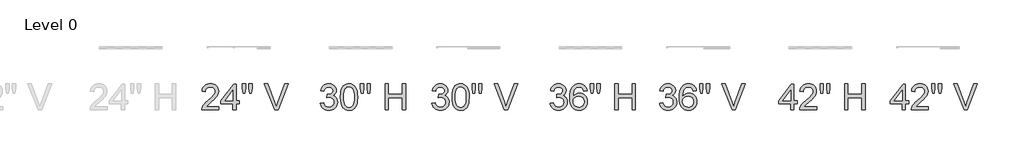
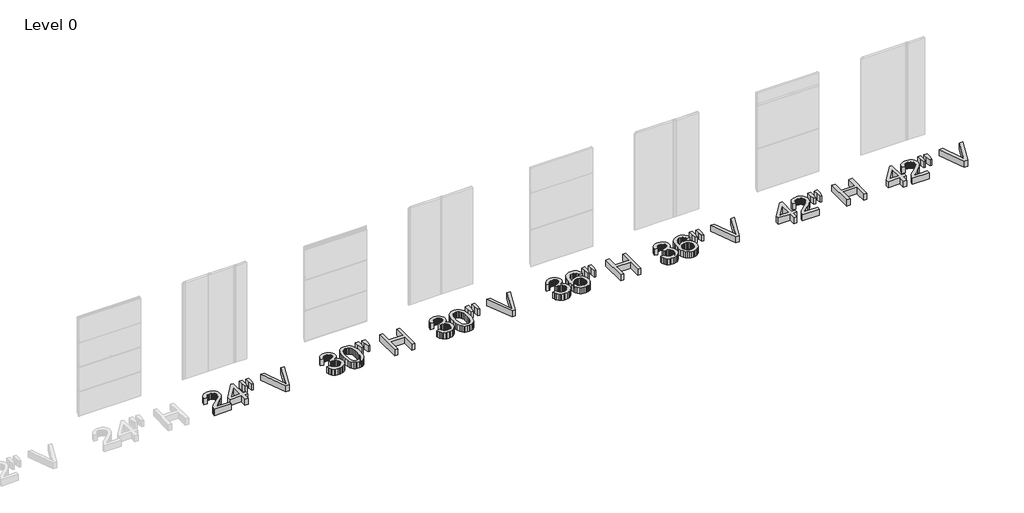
# One storey, part 3 of 5: 7 proxies.
"""IFC4 building model written with IfcOpenShell, lengths in millimetres."""

from ifc_helpers import new_model, si_unit, origin, origin_with_axes, place, context, project, spatial, polyline, outline, extrude, element, save

model = new_model("IFC4")

# Units and contexts
model_context = context("Model", 3, world=origin())
ifc_project = project(units=[si_unit("LENGTHUNIT", "METRE", prefix="MILLI")], contexts=[model_context])

# Site, building, storey
site = spatial("IfcSite", under=ifc_project)
building = spatial("IfcBuilding", under=site)
storey = spatial("IfcBuildingStorey", under=building, Name="Level 0", Elevation=0.0)

# Proxies
placement = place(None, origin())
element("IfcBuildingElementProxy", 1, Name="24\" Arial", ObjectType="24\" Arial", at=placement, inside=storey, context=model_context, shape_type="SweptSolid", body=[
    extrude(outline(polyline([(-22407.9539818, 9485.5823155), (-22407.9539818, 9409.440542), (-22807.6982928, 9409.440542), (-22806.0252557, 9436.2463129), (-22799.5190007, 9461.9367257), (-22780.7438075, 9502.9633112), (-22753.2688218, 9542.7630029), (-22713.5248981, 9584.4216246), (-22657.9428905, 9631.0250001), (-22575.7781838, 9704.0065926), (-22526.4793597, 9757.8783845), (-22512.100536, 9779.8881159), (-22501.8299477, 9801.6004185), (-22495.6675947, 9823.0152923), (-22493.613477, 9844.1327373), (-22495.5514115, 9864.0000519), (-22501.3652152, 9882.259392), (-22511.0548879, 9898.9107576), (-22524.6204297, 9913.9541488), (-22541.3089739, 9926.4136272), (-22560.3676539, 9935.3132547), (-22581.7964697, 9940.6530311), (-22605.5954213, 9942.4329566), (-22630.6677399, 9940.6948571), (-22653.0910832, 9935.4805584), (-22672.8654513, 9926.7900605), (-22689.990844, 9914.6233636), (-22703.84452, 9899.3894321), (-22713.8037376, 9881.4972307), (-22719.8684968, 9860.9467593), (-22722.0387975, 9837.7380181), (-22798.1805711, 9847.2557397), (-22791.6324901, 9886.562815), (-22779.721396, 9920.906547), (-22762.4472888, 9950.286936), (-22739.8101685, 9974.7039817), (-22712.3305355, 9993.8974342), (-22680.5288903, 10007.6070431), (-22644.4052327, 10015.8328084), (-22603.9595628, 10018.5747302), (-22563.1514016, 10015.5260849), (-22526.8325564, 10006.3801492), (-22495.0030272, 9991.1369231), (-22467.662814, 9969.7964065), (-22445.7042031, 9943.93869), (-22430.0194811, 9915.143864), (-22420.6086479, 9883.4119286), (-22417.4717035, 9848.7428838), (-22420.8549561, 9812.3264447), (-22431.004714, 9776.5420419), (-22449.0177459, 9740.1441921), (-22475.9908204, 9701.8874124), (-22518.9878717, 9656.2135018), (-22585.0728339, 9597.5642598), (-22672.6656163, 9524.3224171), (-22707.018643, 9485.5823155), (-22407.9539818, 9485.5823155)])), origin_with_axes(), (0.0, 0.0, 1.0), 152.4),
    extrude(outline(polyline([(-22084.3514443, 9409.440542), (-22084.3514443, 9552.2063674), (-22360.3653733, 9552.2063674), (-22360.3653733, 9628.3481409), (-22065.316001, 10009.0570085), (-22008.2096708, 10009.0570085), (-22008.2096708, 9628.3481409), (-21932.0678973, 9628.3481409), (-21932.0678973, 9552.2063674), (-22008.2096708, 9552.2063674), (-22008.2096708, 9409.440542), (-22084.3514443, 9409.440542)]), holes=[polyline([(-22084.3514443, 9628.3481409), (-22084.3514443, 9863.6143239), (-22266.6753005, 9628.3481409), (-22084.3514443, 9628.3481409)])]), origin_with_axes(), (0.0, 0.0, 1.0), 152.4),
    extrude(outline(polyline([(-21846.8545453, 9799.6671313), (-21865.4438455, 9917.3002228), (-21865.4438455, 10018.5747302), (-21789.302072, 10018.5747302), (-21789.302072, 9917.3002228), (-21805.9580849, 9799.6671313), (-21846.8545453, 9799.6671313)])), origin_with_axes(), (0.0, 0.0, 1.0), 152.4),
    extrude(outline(polyline([(-21695.0171415, 9799.6671313), (-21713.1602984, 9917.3002228), (-21713.1602984, 10018.5747302), (-21637.0185249, 10018.5747302), (-21637.0185249, 9917.3002228), (-21654.8642531, 9799.6671313), (-21695.0171415, 9799.6671313)])), origin_with_axes(), (0.0, 0.0, 1.0), 152.4),
    extrude(outline(polyline([(-21114.4361184, 9409.440542), (-21356.8405927, 10018.5747302), (-21275.3451007, 10018.5747302), (-21113.0976888, 9579.7185316), (-21080.2318061, 9480.8234547), (-21047.8120666, 9579.7185316), (-20885.1185114, 10018.5747302), (-20803.6230195, 10018.5747302), (-21035.7662001, 9409.440542), (-21114.4361184, 9409.440542)])), origin_with_axes(), (0.0, 0.0, 1.0), 152.4),
])
element("IfcBuildingElementProxy", 2, Name="24\" Arial", ObjectType="24\" Arial", at=placement, inside=storey, context=model_context, shape_type="SweptSolid", body=[
    extrude(outline(polyline([(-20054.9805711, 9571.2418107), (-19978.8387975, 9580.7595324), (-19961.7924093, 9532.9106738), (-19950.2995745, 9514.8139901), (-19936.8269792, 9500.6024701), (-19921.0678999, 9489.8671492), (-19902.7156133, 9482.1990629), (-19881.7701194, 9477.5982111), (-19858.231418, 9476.0645938), (-19830.6448966, 9478.1744794), (-19806.0326631, 9484.5041361), (-19784.3947177, 9495.053564), (-19765.7310603, 9509.822763), (-19750.7016111, 9527.7056697), (-19739.9662903, 9547.5962209), (-19733.5250978, 9569.4944165), (-19731.3780336, 9593.4002566), (-19733.5065085, 9616.1675019), (-19739.8919331, 9636.8806297), (-19750.5343074, 9655.5396397), (-19765.4336315, 9672.1445321), (-19783.6139671, 9685.7751364), (-19804.0993759, 9695.5112824), (-19826.8898579, 9701.35297), (-19851.9854132, 9703.3001992), (-19876.0399676, 9701.2181976), (-19905.3738833, 9694.9721927), (-19896.8971624, 9771.1139662), (-19884.7025815, 9770.2216798), (-19839.0844388, 9775.6869341), (-19798.2995142, 9792.0826968), (-19781.5133762, 9804.48176), (-19769.5232776, 9819.8179327), (-19762.3292184, 9838.0912148), (-19759.9311987, 9859.3016063), (-19761.6692983, 9876.5199455), (-19766.883597, 9892.1860783), (-19775.5740948, 9906.3000044), (-19787.7407917, 9918.861724), (-19802.6494105, 9929.1741383), (-19819.5656736, 9936.5401485), (-19838.4895812, 9940.9597546), (-19859.4211332, 9942.4329566), (-19880.2969173, 9940.9458126), (-19899.35095, 9936.4843806), (-19916.5832313, 9929.0486605), (-19931.9937611, 9918.6386524), (-19945.2014589, 9905.2543563), (-19955.8252439, 9888.8957721), (-19963.8651163, 9869.5629), (-19969.3210759, 9847.2557397), (-20045.4628494, 9856.7734614), (-20036.4377441, 9893.1248379), (-20023.0441534, 9925.1449075), (-20005.282077, 9952.8336701), (-19983.1515152, 9976.1911258), (-19957.3495665, 9994.7339527), (-19928.5733299, 10007.9788291), (-19896.8228052, 10015.9257549), (-19862.0979924, 10018.5747302), (-19814.2305445, 10013.3511368), (-19770.2668496, 9997.6803568), (-19733.199785, 9972.9565875), (-19706.0222282, 9940.5740266), (-19689.3476259, 9903.2653012), (-19683.7894252, 9863.7630383), (-19689.0687864, 9826.956224), (-19704.9068702, 9793.5698408), (-19731.0806048, 9765.1282116), (-19767.3669188, 9743.1556588), (-19741.992524, 9735.2180276), (-19719.7039531, 9723.8971438), (-19700.501206, 9709.1930073), (-19684.3842828, 9691.1056183), (-19671.6320229, 9670.0811198), (-19662.5232658, 9646.5656551), (-19657.0580115, 9620.5592241), (-19655.2362601, 9592.0618269), (-19658.8797629, 9553.4332612), (-19669.8102714, 9517.8533406), (-19688.0277856, 9485.3220653), (-19713.5323054, 9455.8394353), (-19744.6043207, 9431.3759162), (-19779.5243211, 9413.9019741), (-19818.2923066, 9403.4176088), (-19860.9082772, 9399.9228203), (-19899.4253072, 9402.906403), (-19934.5219059, 9411.857151), (-19966.1980734, 9426.7750644), (-19994.4538097, 9447.6601432), (-20018.1458728, 9473.2854935), (-20036.1310207, 9502.4242215), (-20048.4092535, 9535.0763273), (-20054.9805711, 9571.2418107)])), origin_with_axes(), (0.0, 0.0, 1.0), 152.4),
    extrude(outline(polyline([(-19588.6122083, 9709.1000608), (-19583.0168289, 9806.6009403), (-19576.0226047, 9847.9481912), (-19566.2306909, 9884.3599829), (-19553.6829132, 9916.1337442), (-19538.4210978, 9943.5669039), (-19520.4452445, 9966.6594621), (-19499.7553534, 9985.4114186), (-19476.2817146, 9999.9203674), (-19449.9546183, 10010.2839023), (-19420.7740643, 10016.5020232), (-19388.7400528, 10018.5747302), (-19341.8206591, 10013.6671549), (-19299.8088408, 9998.9444292), (-19264.6750634, 9974.9828212), (-19238.389793, 9942.3585994), (-19218.5364204, 9901.3506033), (-19202.6983366, 9852.2376722), (-19192.3255071, 9789.8705701), (-19188.8678973, 9709.1000608), (-19194.4075088, 9612.1568604), (-19201.3320231, 9570.9490293), (-19211.0263431, 9534.5837108), (-19223.4765269, 9502.7960075), (-19238.6686325, 9475.3210218), (-19256.6026598, 9452.1587538), (-19277.2786089, 9433.3092034), (-19300.7801317, 9418.7026608), (-19327.1908799, 9408.2694161), (-19356.5108536, 9402.0094693), (-19388.7400528, 9399.9228203), (-19430.677514, 9403.5477339), (-19467.8561143, 9414.4224745), (-19500.2758538, 9432.5470421), (-19527.9367325, 9457.9214369), (-19554.4822532, 9503.7905351), (-19573.4433393, 9560.9433384), (-19584.819991, 9629.379847), (-19588.6122083, 9709.1000608)]), holes=[polyline([(-19512.4704348, 9709.2487752), (-19510.2397187, 9643.0569246), (-19503.5475707, 9589.4779142), (-19492.3939906, 9548.511744), (-19476.7789784, 9520.1584139), (-19457.8922494, 9500.8673676), (-19436.9235188, 9487.0880488), (-19413.8727866, 9478.8204576), (-19388.7400528, 9476.0645938), (-19363.607319, 9478.8297522), (-19340.5565867, 9487.1252274), (-19319.5878561, 9500.9510195), (-19300.7011272, 9520.3071283), (-19285.086115, 9548.7069316), (-19273.9325349, 9589.6638072), (-19267.2403868, 9643.1777551), (-19265.0096708, 9709.2487752), (-19267.1660296, 9773.6885843), (-19273.6351061, 9826.3241877), (-19284.4169002, 9867.1555856), (-19299.5114119, 9896.1827778), (-19318.0821228, 9916.417231), (-19339.2925143, 9930.8704119), (-19363.1425864, 9939.5423205), (-19389.6323392, 9942.4329566), (-19414.6349479, 9939.8862225), (-19437.2953048, 9932.2460201), (-19457.6134099, 9919.5123495), (-19475.5892632, 9901.6852107), (-19491.7247758, 9870.0834004), (-19503.2501419, 9827.4767244), (-19510.1653615, 9773.8651827), (-19512.4704348, 9709.2487752)])]), origin_with_axes(), (0.0, 0.0, 1.0), 152.4),
    extrude(outline(polyline([(-19103.6545453, 9799.6671313), (-19122.2438455, 9917.3002228), (-19122.2438455, 10018.5747302), (-19046.102072, 10018.5747302), (-19046.102072, 9917.3002228), (-19062.7580849, 9799.6671313), (-19103.6545453, 9799.6671313)])), origin_with_axes(), (0.0, 0.0, 1.0), 152.4),
    extrude(outline(polyline([(-18951.8171415, 9799.6671313), (-18969.9602984, 9917.3002228), (-18969.9602984, 10018.5747302), (-18893.8185249, 10018.5747302), (-18893.8185249, 9917.3002228), (-18911.6642531, 9799.6671313), (-18951.8171415, 9799.6671313)])), origin_with_axes(), (0.0, 0.0, 1.0), 152.4),
    extrude(outline(polyline([(-18551.1805441, 9409.440542), (-18551.1805441, 10018.5747302), (-18475.0387706, 10018.5747302), (-18475.0387706, 9771.1139662), (-18151.4362331, 9771.1139662), (-18151.4362331, 10018.5747302), (-18075.2944596, 10018.5747302), (-18075.2944596, 9409.440542), (-18151.4362331, 9409.440542), (-18151.4362331, 9694.9721927), (-18475.0387706, 9694.9721927), (-18475.0387706, 9409.440542), (-18551.1805441, 9409.440542)])), origin_with_axes(), (0.0, 0.0, 1.0), 152.4),
])
element("IfcBuildingElementProxy", 3, Name="24\" Arial", ObjectType="24\" Arial", at=placement, inside=storey, context=model_context, shape_type="SweptSolid", body=[
    extrude(outline(polyline([(-17464.1805711, 9571.2418107), (-17388.0387975, 9580.7595324), (-17370.9924093, 9532.9106738), (-17359.4995745, 9514.8139901), (-17346.0269792, 9500.6024701), (-17330.2678999, 9489.8671492), (-17311.9156133, 9482.1990629), (-17290.9701194, 9477.5982111), (-17267.431418, 9476.0645938), (-17239.8448966, 9478.1744794), (-17215.2326631, 9484.5041361), (-17193.5947177, 9495.053564), (-17174.9310603, 9509.822763), (-17159.9016111, 9527.7056697), (-17149.1662903, 9547.5962209), (-17142.7250978, 9569.4944165), (-17140.5780336, 9593.4002566), (-17142.7065085, 9616.1675019), (-17149.0919331, 9636.8806297), (-17159.7343074, 9655.5396397), (-17174.6336315, 9672.1445321), (-17192.8139671, 9685.7751364), (-17213.2993759, 9695.5112824), (-17236.0898579, 9701.35297), (-17261.1854132, 9703.3001992), (-17285.2399676, 9701.2181976), (-17314.5738833, 9694.9721927), (-17306.0971624, 9771.1139662), (-17293.9025815, 9770.2216798), (-17248.2844388, 9775.6869341), (-17207.4995142, 9792.0826968), (-17190.7133762, 9804.48176), (-17178.7232776, 9819.8179327), (-17171.5292184, 9838.0912148), (-17169.1311987, 9859.3016063), (-17170.8692983, 9876.5199455), (-17176.083597, 9892.1860783), (-17184.7740948, 9906.3000044), (-17196.9407917, 9918.861724), (-17211.8494105, 9929.1741383), (-17228.7656736, 9936.5401485), (-17247.6895812, 9940.9597546), (-17268.6211332, 9942.4329566), (-17289.4969173, 9940.9458126), (-17308.55095, 9936.4843806), (-17325.7832313, 9929.0486605), (-17341.1937611, 9918.6386524), (-17354.4014589, 9905.2543563), (-17365.0252439, 9888.8957721), (-17373.0651163, 9869.5629), (-17378.5210759, 9847.2557397), (-17454.6628494, 9856.7734614), (-17445.6377441, 9893.1248379), (-17432.2441534, 9925.1449075), (-17414.482077, 9952.8336701), (-17392.3515152, 9976.1911258), (-17366.5495665, 9994.7339527), (-17337.7733299, 10007.9788291), (-17306.0228052, 10015.9257549), (-17271.2979924, 10018.5747302), (-17223.4305445, 10013.3511368), (-17179.4668496, 9997.6803568), (-17142.399785, 9972.9565875), (-17115.2222282, 9940.5740266), (-17098.5476259, 9903.2653012), (-17092.9894252, 9863.7630383), (-17098.2687864, 9826.956224), (-17114.1068702, 9793.5698408), (-17140.2806048, 9765.1282116), (-17176.5669188, 9743.1556588), (-17151.192524, 9735.2180276), (-17128.9039531, 9723.8971438), (-17109.701206, 9709.1930073), (-17093.5842828, 9691.1056183), (-17080.8320229, 9670.0811198), (-17071.7232658, 9646.5656551), (-17066.2580115, 9620.5592241), (-17064.4362601, 9592.0618269), (-17068.0797629, 9553.4332612), (-17079.0102714, 9517.8533406), (-17097.2277856, 9485.3220653), (-17122.7323054, 9455.8394353), (-17153.8043207, 9431.3759162), (-17188.7243211, 9413.9019741), (-17227.4923066, 9403.4176088), (-17270.1082772, 9399.9228203), (-17308.6253072, 9402.906403), (-17343.7219059, 9411.857151), (-17375.3980734, 9426.7750644), (-17403.6538097, 9447.6601432), (-17427.3458728, 9473.2854935), (-17445.3310207, 9502.4242215), (-17457.6092535, 9535.0763273), (-17464.1805711, 9571.2418107)])), origin_with_axes(), (0.0, 0.0, 1.0), 152.4),
    extrude(outline(polyline([(-16997.8122083, 9709.1000608), (-16992.2168289, 9806.6009403), (-16985.2226047, 9847.9481912), (-16975.4306909, 9884.3599829), (-16962.8829132, 9916.1337442), (-16947.6210978, 9943.5669039), (-16929.6452445, 9966.6594621), (-16908.9553534, 9985.4114186), (-16885.4817146, 9999.9203674), (-16859.1546183, 10010.2839023), (-16829.9740643, 10016.5020232), (-16797.9400528, 10018.5747302), (-16751.0206591, 10013.6671549), (-16709.0088408, 9998.9444292), (-16673.8750634, 9974.9828212), (-16647.589793, 9942.3585994), (-16627.7364204, 9901.3506033), (-16611.8983366, 9852.2376722), (-16601.5255071, 9789.8705701), (-16598.0678973, 9709.1000608), (-16603.6075088, 9612.1568604), (-16610.5320231, 9570.9490293), (-16620.2263431, 9534.5837108), (-16632.6765269, 9502.7960075), (-16647.8686325, 9475.3210218), (-16665.8026598, 9452.1587538), (-16686.4786089, 9433.3092034), (-16709.9801317, 9418.7026608), (-16736.3908799, 9408.2694161), (-16765.7108536, 9402.0094693), (-16797.9400528, 9399.9228203), (-16839.877514, 9403.5477339), (-16877.0561143, 9414.4224745), (-16909.4758538, 9432.5470421), (-16937.1367325, 9457.9214369), (-16963.6822532, 9503.7905351), (-16982.6433393, 9560.9433384), (-16994.019991, 9629.379847), (-16997.8122083, 9709.1000608)]), holes=[polyline([(-16921.6704348, 9709.2487752), (-16919.4397187, 9643.0569246), (-16912.7475707, 9589.4779142), (-16901.5939906, 9548.511744), (-16885.9789784, 9520.1584139), (-16867.0922494, 9500.8673676), (-16846.1235188, 9487.0880488), (-16823.0727866, 9478.8204576), (-16797.9400528, 9476.0645938), (-16772.807319, 9478.8297522), (-16749.7565867, 9487.1252274), (-16728.7878561, 9500.9510195), (-16709.9011272, 9520.3071283), (-16694.286115, 9548.7069316), (-16683.1325349, 9589.6638072), (-16676.4403868, 9643.1777551), (-16674.2096708, 9709.2487752), (-16676.3660296, 9773.6885843), (-16682.8351061, 9826.3241877), (-16693.6169002, 9867.1555856), (-16708.7114119, 9896.1827778), (-16727.2821228, 9916.417231), (-16748.4925143, 9930.8704119), (-16772.3425864, 9939.5423205), (-16798.8323392, 9942.4329566), (-16823.8349479, 9939.8862225), (-16846.4953048, 9932.2460201), (-16866.8134099, 9919.5123495), (-16884.7892632, 9901.6852107), (-16900.9247758, 9870.0834004), (-16912.4501419, 9827.4767244), (-16919.3653615, 9773.8651827), (-16921.6704348, 9709.2487752)])]), origin_with_axes(), (0.0, 0.0, 1.0), 152.4),
    extrude(outline(polyline([(-16512.8545453, 9799.6671313), (-16531.4438455, 9917.3002228), (-16531.4438455, 10018.5747302), (-16455.302072, 10018.5747302), (-16455.302072, 9917.3002228), (-16471.9580849, 9799.6671313), (-16512.8545453, 9799.6671313)])), origin_with_axes(), (0.0, 0.0, 1.0), 152.4),
    extrude(outline(polyline([(-16361.0171415, 9799.6671313), (-16379.1602984, 9917.3002228), (-16379.1602984, 10018.5747302), (-16303.0185249, 10018.5747302), (-16303.0185249, 9917.3002228), (-16320.8642531, 9799.6671313), (-16361.0171415, 9799.6671313)])), origin_with_axes(), (0.0, 0.0, 1.0), 152.4),
    extrude(outline(polyline([(-15780.4361184, 9409.440542), (-16022.8405927, 10018.5747302), (-15941.3451007, 10018.5747302), (-15779.0976888, 9579.7185316), (-15746.2318061, 9480.8234547), (-15713.8120666, 9579.7185316), (-15551.1185114, 10018.5747302), (-15469.6230195, 10018.5747302), (-15701.7662001, 9409.440542), (-15780.4361184, 9409.440542)])), origin_with_axes(), (0.0, 0.0, 1.0), 152.4),
])
element("IfcBuildingElementProxy", 4, Name="24\" Arial", ObjectType="24\" Arial", at=placement, inside=storey, context=model_context, shape_type="SweptSolid", body=[
    extrude(outline(polyline([(-14720.9805711, 9571.2418107), (-14644.8387975, 9580.7595324), (-14627.7924093, 9532.9106738), (-14616.2995745, 9514.8139901), (-14602.8269792, 9500.6024701), (-14587.0678999, 9489.8671492), (-14568.7156133, 9482.1990629), (-14547.7701194, 9477.5982111), (-14524.231418, 9476.0645938), (-14496.6448966, 9478.1744794), (-14472.0326631, 9484.5041361), (-14450.3947177, 9495.053564), (-14431.7310603, 9509.822763), (-14416.7016111, 9527.7056697), (-14405.9662903, 9547.5962209), (-14399.5250978, 9569.4944165), (-14397.3780336, 9593.4002566), (-14399.5065085, 9616.1675019), (-14405.8919331, 9636.8806297), (-14416.5343074, 9655.5396397), (-14431.4336315, 9672.1445321), (-14449.6139671, 9685.7751364), (-14470.0993759, 9695.5112824), (-14492.8898579, 9701.35297), (-14517.9854132, 9703.3001992), (-14542.0399676, 9701.2181976), (-14571.3738833, 9694.9721927), (-14562.8971624, 9771.1139662), (-14550.7025815, 9770.2216798), (-14505.0844388, 9775.6869341), (-14464.2995142, 9792.0826968), (-14447.5133762, 9804.48176), (-14435.5232776, 9819.8179327), (-14428.3292184, 9838.0912148), (-14425.9311987, 9859.3016063), (-14427.6692983, 9876.5199455), (-14432.883597, 9892.1860783), (-14441.5740948, 9906.3000044), (-14453.7407917, 9918.861724), (-14468.6494105, 9929.1741383), (-14485.5656736, 9936.5401485), (-14504.4895812, 9940.9597546), (-14525.4211332, 9942.4329566), (-14546.2969173, 9940.9458126), (-14565.35095, 9936.4843806), (-14582.5832313, 9929.0486605), (-14597.9937611, 9918.6386524), (-14611.2014589, 9905.2543563), (-14621.8252439, 9888.8957721), (-14629.8651163, 9869.5629), (-14635.3210759, 9847.2557397), (-14711.4628494, 9856.7734614), (-14702.4377441, 9893.1248379), (-14689.0441534, 9925.1449075), (-14671.282077, 9952.8336701), (-14649.1515152, 9976.1911258), (-14623.3495665, 9994.7339527), (-14594.5733299, 10007.9788291), (-14562.8228052, 10015.9257549), (-14528.0979924, 10018.5747302), (-14480.2305445, 10013.3511368), (-14436.2668496, 9997.6803568), (-14399.199785, 9972.9565875), (-14372.0222282, 9940.5740266), (-14355.3476259, 9903.2653012), (-14349.7894252, 9863.7630383), (-14355.0687864, 9826.956224), (-14370.9068702, 9793.5698408), (-14397.0806048, 9765.1282116), (-14433.3669188, 9743.1556588), (-14407.992524, 9735.2180276), (-14385.7039531, 9723.8971438), (-14366.501206, 9709.1930073), (-14350.3842828, 9691.1056183), (-14337.6320229, 9670.0811198), (-14328.5232658, 9646.5656551), (-14323.0580115, 9620.5592241), (-14321.2362601, 9592.0618269), (-14324.8797629, 9553.4332612), (-14335.8102714, 9517.8533406), (-14354.0277856, 9485.3220653), (-14379.5323054, 9455.8394353), (-14410.6043207, 9431.3759162), (-14445.5243211, 9413.9019741), (-14484.2923066, 9403.4176088), (-14526.9082772, 9399.9228203), (-14565.4253072, 9402.906403), (-14600.5219059, 9411.857151), (-14632.1980734, 9426.7750644), (-14660.4538097, 9447.6601432), (-14684.1458728, 9473.2854935), (-14702.1310207, 9502.4242215), (-14714.4092535, 9535.0763273), (-14720.9805711, 9571.2418107)])), origin_with_axes(), (0.0, 0.0, 1.0), 152.4),
    extrude(outline(polyline([(-13864.385619, 9856.7734614), (-13940.5273925, 9847.2557397), (-13952.7963306, 9884.9920191), (-13969.3779864, 9910.7567891), (-13985.7458652, 9924.6151124), (-14003.9169061, 9934.5139148), (-14023.8911091, 9940.4531962), (-14045.6684743, 9942.4329566), (-14081.0625018, 9937.8228102), (-14114.3745278, 9923.9923709), (-14142.9834607, 9894.8629375), (-14166.350211, 9854.765817), (-14175.4822048, 9829.1915873), (-14182.1325269, 9798.0498622), (-14187.9881564, 9719.0639257), (-14157.4459363, 9754.6996142), (-14120.8436042, 9779.8137587), (-14080.2259833, 9794.7037881), (-14037.6378966, 9799.6671313), (-14001.0541539, 9796.274584), (-13967.2959848, 9786.0969422), (-13936.3633893, 9769.1342058), (-13908.2563674, 9745.3863748), (-13884.8989117, 9716.2662361), (-13868.2150148, 9683.1865764), (-13858.2046767, 9646.1473958), (-13854.8678973, 9605.1486943), (-13856.4386932, 9577.3902218), (-13861.1510808, 9550.6262768), (-13869.0050601, 9524.8568595), (-13880.0006311, 9500.0819697), (-13893.7474186, 9477.2264251), (-13909.8550472, 9457.2150435), (-13928.3235169, 9440.0478248), (-13949.1528278, 9425.724769), (-13971.8968366, 9414.4364164), (-13996.1094, 9406.3733075), (-14021.7905182, 9401.5354421), (-14048.9401911, 9399.9228203), (-14094.3306148, 9404.1983594), (-14135.324669, 9417.0249765), (-14171.9223538, 9438.4026717), (-14204.123669, 9468.331445), (-14230.3764082, 9508.0753687), (-14249.1283647, 9558.8985154), (-14260.3795387, 9620.800885), (-14264.12993, 9693.7824775), (-14259.9659267, 9775.6032822), (-14247.473917, 9845.4339883), (-14226.6539008, 9903.2745958), (-14213.1208903, 9927.6986126), (-14197.5058781, 9949.1251047), (-14165.9133625, 9979.5093158), (-14129.2831465, 10001.2123238), (-14087.6152301, 10014.2341286), (-14040.9096135, 10018.5747302), (-14005.8408987, 10015.8885763), (-13974.0996686, 10007.8301147), (-13945.6859233, 9994.3993453), (-13920.5996627, 9975.5962682), (-13899.5193963, 9952.0529195), (-13883.1236336, 9924.4013355), (-13871.4123745, 9892.6415161), (-13864.385619, 9856.7734614)]), holes=[polyline([(-14187.9881564, 9606.3384095), (-14183.5824923, 9572.5988297), (-14170.3654999, 9540.3835725), (-14149.8429125, 9512.6855152), (-14123.5204634, 9492.4975352), (-14091.7513494, 9480.1728292), (-14054.8887672, 9476.0645938), (-14028.4222511, 9478.1930687), (-14004.6418888, 9484.5784933), (-13983.5476804, 9495.2208677), (-13965.1396259, 9510.1201918), (-13950.2077706, 9528.6723133), (-13939.5421596, 9550.2730801), (-13933.142793, 9574.9224922), (-13931.0096708, 9602.6205494), (-13933.1149091, 9629.23578), (-13939.4306238, 9652.8674278), (-13949.956815, 9673.515493), (-13964.6934827, 9691.1799755), (-13983.1573051, 9705.3310802), (-14004.8649604, 9715.4390122), (-14029.8164486, 9721.5037714), (-14058.0117696, 9723.5253578), (-14084.125089, 9721.5037714), (-14108.1842908, 9715.4390122), (-14130.1893749, 9705.3310802), (-14150.1403413, 9691.1799755), (-14166.6987604, 9673.7478592), (-14178.5262027, 9653.7968928), (-14185.622668, 9631.3270762), (-14187.9881564, 9606.3384095)])]), origin_with_axes(), (0.0, 0.0, 1.0), 152.4),
    extrude(outline(polyline([(-13769.6545453, 9799.6671313), (-13788.2438455, 9917.3002228), (-13788.2438455, 10018.5747302), (-13712.102072, 10018.5747302), (-13712.102072, 9917.3002228), (-13728.7580849, 9799.6671313), (-13769.6545453, 9799.6671313)])), origin_with_axes(), (0.0, 0.0, 1.0), 152.4),
    extrude(outline(polyline([(-13617.8171415, 9799.6671313), (-13635.9602984, 9917.3002228), (-13635.9602984, 10018.5747302), (-13559.8185249, 10018.5747302), (-13559.8185249, 9917.3002228), (-13577.6642531, 9799.6671313), (-13617.8171415, 9799.6671313)])), origin_with_axes(), (0.0, 0.0, 1.0), 152.4),
    extrude(outline(polyline([(-13217.1805441, 9409.440542), (-13217.1805441, 10018.5747302), (-13141.0387706, 10018.5747302), (-13141.0387706, 9771.1139662), (-12817.4362331, 9771.1139662), (-12817.4362331, 10018.5747302), (-12741.2944596, 10018.5747302), (-12741.2944596, 9409.440542), (-12817.4362331, 9409.440542), (-12817.4362331, 9694.9721927), (-13141.0387706, 9694.9721927), (-13141.0387706, 9409.440542), (-13217.1805441, 9409.440542)])), origin_with_axes(), (0.0, 0.0, 1.0), 152.4),
])
element("IfcBuildingElementProxy", 5, Name="24\" Arial", ObjectType="24\" Arial", at=placement, inside=storey, context=model_context, shape_type="SweptSolid", body=[
    extrude(outline(polyline([(-12180.9805711, 9571.2418107), (-12104.8387975, 9580.7595324), (-12087.7924093, 9532.9106738), (-12076.2995745, 9514.8139901), (-12062.8269792, 9500.6024701), (-12047.0678999, 9489.8671492), (-12028.7156133, 9482.1990629), (-12007.7701194, 9477.5982111), (-11984.231418, 9476.0645938), (-11956.6448966, 9478.1744794), (-11932.0326631, 9484.5041361), (-11910.3947177, 9495.053564), (-11891.7310603, 9509.822763), (-11876.7016111, 9527.7056697), (-11865.9662903, 9547.5962209), (-11859.5250978, 9569.4944165), (-11857.3780336, 9593.4002566), (-11859.5065085, 9616.1675019), (-11865.8919331, 9636.8806297), (-11876.5343074, 9655.5396397), (-11891.4336315, 9672.1445321), (-11909.6139671, 9685.7751364), (-11930.0993759, 9695.5112824), (-11952.8898579, 9701.35297), (-11977.9854132, 9703.3001992), (-12002.0399676, 9701.2181976), (-12031.3738833, 9694.9721927), (-12022.8971624, 9771.1139662), (-12010.7025815, 9770.2216798), (-11965.0844388, 9775.6869341), (-11924.2995142, 9792.0826968), (-11907.5133762, 9804.48176), (-11895.5232776, 9819.8179327), (-11888.3292184, 9838.0912148), (-11885.9311987, 9859.3016063), (-11887.6692983, 9876.5199455), (-11892.883597, 9892.1860783), (-11901.5740948, 9906.3000044), (-11913.7407917, 9918.861724), (-11928.6494105, 9929.1741383), (-11945.5656736, 9936.5401485), (-11964.4895812, 9940.9597546), (-11985.4211332, 9942.4329566), (-12006.2969173, 9940.9458126), (-12025.35095, 9936.4843806), (-12042.5832313, 9929.0486605), (-12057.9937611, 9918.6386524), (-12071.2014589, 9905.2543563), (-12081.8252439, 9888.8957721), (-12089.8651163, 9869.5629), (-12095.3210759, 9847.2557397), (-12171.4628494, 9856.7734614), (-12162.4377441, 9893.1248379), (-12149.0441534, 9925.1449075), (-12131.282077, 9952.8336701), (-12109.1515152, 9976.1911258), (-12083.3495665, 9994.7339527), (-12054.5733299, 10007.9788291), (-12022.8228052, 10015.9257549), (-11988.0979924, 10018.5747302), (-11940.2305445, 10013.3511368), (-11896.2668496, 9997.6803568), (-11859.199785, 9972.9565875), (-11832.0222282, 9940.5740266), (-11815.3476259, 9903.2653012), (-11809.7894252, 9863.7630383), (-11815.0687864, 9826.956224), (-11830.9068702, 9793.5698408), (-11857.0806048, 9765.1282116), (-11893.3669188, 9743.1556588), (-11867.992524, 9735.2180276), (-11845.7039531, 9723.8971438), (-11826.501206, 9709.1930073), (-11810.3842828, 9691.1056183), (-11797.6320229, 9670.0811198), (-11788.5232658, 9646.5656551), (-11783.0580115, 9620.5592241), (-11781.2362601, 9592.0618269), (-11784.8797629, 9553.4332612), (-11795.8102714, 9517.8533406), (-11814.0277856, 9485.3220653), (-11839.5323054, 9455.8394353), (-11870.6043207, 9431.3759162), (-11905.5243211, 9413.9019741), (-11944.2923066, 9403.4176088), (-11986.9082772, 9399.9228203), (-12025.4253072, 9402.906403), (-12060.5219059, 9411.857151), (-12092.1980734, 9426.7750644), (-12120.4538097, 9447.6601432), (-12144.1458728, 9473.2854935), (-12162.1310207, 9502.4242215), (-12174.4092535, 9535.0763273), (-12180.9805711, 9571.2418107)])), origin_with_axes(), (0.0, 0.0, 1.0), 152.4),
    extrude(outline(polyline([(-11324.385619, 9856.7734614), (-11400.5273925, 9847.2557397), (-11412.7963306, 9884.9920191), (-11429.3779864, 9910.7567891), (-11445.7458652, 9924.6151124), (-11463.9169061, 9934.5139148), (-11483.8911091, 9940.4531962), (-11505.6684743, 9942.4329566), (-11541.0625018, 9937.8228102), (-11574.3745278, 9923.9923709), (-11602.9834607, 9894.8629375), (-11626.350211, 9854.765817), (-11635.4822048, 9829.1915873), (-11642.1325269, 9798.0498622), (-11647.9881564, 9719.0639257), (-11617.4459363, 9754.6996142), (-11580.8436042, 9779.8137587), (-11540.2259833, 9794.7037881), (-11497.6378966, 9799.6671313), (-11461.0541539, 9796.274584), (-11427.2959848, 9786.0969422), (-11396.3633893, 9769.1342058), (-11368.2563674, 9745.3863748), (-11344.8989117, 9716.2662361), (-11328.2150148, 9683.1865764), (-11318.2046767, 9646.1473958), (-11314.8678973, 9605.1486943), (-11316.4386932, 9577.3902218), (-11321.1510808, 9550.6262768), (-11329.0050601, 9524.8568595), (-11340.0006311, 9500.0819697), (-11353.7474186, 9477.2264251), (-11369.8550472, 9457.2150435), (-11388.3235169, 9440.0478248), (-11409.1528278, 9425.724769), (-11431.8968366, 9414.4364164), (-11456.1094, 9406.3733075), (-11481.7905182, 9401.5354421), (-11508.9401911, 9399.9228203), (-11554.3306148, 9404.1983594), (-11595.324669, 9417.0249765), (-11631.9223538, 9438.4026717), (-11664.123669, 9468.331445), (-11690.3764082, 9508.0753687), (-11709.1283647, 9558.8985154), (-11720.3795387, 9620.800885), (-11724.12993, 9693.7824775), (-11719.9659267, 9775.6032822), (-11707.473917, 9845.4339883), (-11686.6539008, 9903.2745958), (-11673.1208903, 9927.6986126), (-11657.5058781, 9949.1251047), (-11625.9133625, 9979.5093158), (-11589.2831465, 10001.2123238), (-11547.6152301, 10014.2341286), (-11500.9096135, 10018.5747302), (-11465.8408987, 10015.8885763), (-11434.0996686, 10007.8301147), (-11405.6859233, 9994.3993453), (-11380.5996627, 9975.5962682), (-11359.5193963, 9952.0529195), (-11343.1236336, 9924.4013355), (-11331.4123745, 9892.6415161), (-11324.385619, 9856.7734614)]), holes=[polyline([(-11647.9881564, 9606.3384095), (-11643.5824923, 9572.5988297), (-11630.3654999, 9540.3835725), (-11609.8429125, 9512.6855152), (-11583.5204634, 9492.4975352), (-11551.7513494, 9480.1728292), (-11514.8887672, 9476.0645938), (-11488.4222511, 9478.1930687), (-11464.6418888, 9484.5784933), (-11443.5476804, 9495.2208677), (-11425.1396259, 9510.1201918), (-11410.2077706, 9528.6723133), (-11399.5421596, 9550.2730801), (-11393.142793, 9574.9224922), (-11391.0096708, 9602.6205494), (-11393.1149091, 9629.23578), (-11399.4306238, 9652.8674278), (-11409.956815, 9673.515493), (-11424.6934827, 9691.1799755), (-11443.1573051, 9705.3310802), (-11464.8649604, 9715.4390122), (-11489.8164486, 9721.5037714), (-11518.0117696, 9723.5253578), (-11544.125089, 9721.5037714), (-11568.1842908, 9715.4390122), (-11590.1893749, 9705.3310802), (-11610.1403413, 9691.1799755), (-11626.6987604, 9673.7478592), (-11638.5262027, 9653.7968928), (-11645.622668, 9631.3270762), (-11647.9881564, 9606.3384095)])]), origin_with_axes(), (0.0, 0.0, 1.0), 152.4),
    extrude(outline(polyline([(-11229.6545453, 9799.6671313), (-11248.2438455, 9917.3002228), (-11248.2438455, 10018.5747302), (-11172.102072, 10018.5747302), (-11172.102072, 9917.3002228), (-11188.7580849, 9799.6671313), (-11229.6545453, 9799.6671313)])), origin_with_axes(), (0.0, 0.0, 1.0), 152.4),
    extrude(outline(polyline([(-11077.8171415, 9799.6671313), (-11095.9602984, 9917.3002228), (-11095.9602984, 10018.5747302), (-11019.8185249, 10018.5747302), (-11019.8185249, 9917.3002228), (-11037.6642531, 9799.6671313), (-11077.8171415, 9799.6671313)])), origin_with_axes(), (0.0, 0.0, 1.0), 152.4),
    extrude(outline(polyline([(-10497.2361184, 9409.440542), (-10739.6405927, 10018.5747302), (-10658.1451007, 10018.5747302), (-10495.8976888, 9579.7185316), (-10463.0318061, 9480.8234547), (-10430.6120666, 9579.7185316), (-10267.9185114, 10018.5747302), (-10186.4230195, 10018.5747302), (-10418.5662001, 9409.440542), (-10497.2361184, 9409.440542)])), origin_with_axes(), (0.0, 0.0, 1.0), 152.4),
])
element("IfcBuildingElementProxy", 6, Name="24\" Arial", ObjectType="24\" Arial", at=placement, inside=storey, context=model_context, shape_type="SweptSolid", body=[
    extrude(outline(polyline([(-9139.5198071, 9409.440542), (-9139.5198071, 9552.2063674), (-9415.5337361, 9552.2063674), (-9415.5337361, 9628.3481409), (-9120.4843638, 10009.0570085), (-9063.3780336, 10009.0570085), (-9063.3780336, 9628.3481409), (-8987.2362601, 9628.3481409), (-8987.2362601, 9552.2063674), (-9063.3780336, 9552.2063674), (-9063.3780336, 9409.440542), (-9139.5198071, 9409.440542)]), holes=[polyline([(-9139.5198071, 9628.3481409), (-9139.5198071, 9863.6143239), (-9321.8436633, 9628.3481409), (-9139.5198071, 9628.3481409)])]), origin_with_axes(), (0.0, 0.0, 1.0), 152.4),
    extrude(outline(polyline([(-8530.385619, 9485.5823155), (-8530.385619, 9409.440542), (-8930.12993, 9409.440542), (-8928.4568929, 9436.2463129), (-8921.9506379, 9461.9367257), (-8903.1754447, 9502.9633112), (-8875.700459, 9542.7630029), (-8835.9565353, 9584.4216246), (-8780.3745278, 9631.0250001), (-8698.209821, 9704.0065926), (-8648.9109969, 9757.8783845), (-8634.5321732, 9779.8881159), (-8624.2615849, 9801.6004185), (-8618.0992319, 9823.0152923), (-8616.0451142, 9844.1327373), (-8617.9830487, 9864.0000519), (-8623.7968524, 9882.259392), (-8633.4865251, 9898.9107576), (-8647.0520669, 9913.9541488), (-8663.7406111, 9926.4136272), (-8682.7992911, 9935.3132547), (-8704.2281069, 9940.6530311), (-8728.0270585, 9942.4329566), (-8753.0993771, 9940.6948571), (-8775.5227204, 9935.4805584), (-8795.2970885, 9926.7900605), (-8812.4224813, 9914.6233636), (-8826.2761572, 9899.3894321), (-8836.2353748, 9881.4972307), (-8842.300134, 9860.9467593), (-8844.4704348, 9837.7380181), (-8920.6122083, 9847.2557397), (-8914.0641273, 9886.562815), (-8902.1530332, 9920.906547), (-8884.878926, 9950.286936), (-8862.2418057, 9974.7039817), (-8834.7621727, 9993.8974342), (-8802.9605275, 10007.6070431), (-8766.8368699, 10015.8328084), (-8726.3912, 10018.5747302), (-8685.5830388, 10015.5260849), (-8649.2641936, 10006.3801492), (-8617.4346644, 9991.1369231), (-8590.0944512, 9969.7964065), (-8568.1358403, 9943.93869), (-8552.4511183, 9915.143864), (-8543.0402851, 9883.4119286), (-8539.9033407, 9848.7428838), (-8543.2865933, 9812.3264447), (-8553.4363512, 9776.5420419), (-8571.4493831, 9740.1441921), (-8598.4224576, 9701.8874124), (-8641.4195089, 9656.2135018), (-8707.5044711, 9597.5642598), (-8795.0972535, 9524.3224171), (-8829.4502802, 9485.5823155), (-8530.385619, 9485.5823155)])), origin_with_axes(), (0.0, 0.0, 1.0), 152.4),
    extrude(outline(polyline([(-8435.6545453, 9799.6671313), (-8454.2438455, 9917.3002228), (-8454.2438455, 10018.5747302), (-8378.102072, 10018.5747302), (-8378.102072, 9917.3002228), (-8394.7580849, 9799.6671313), (-8435.6545453, 9799.6671313)])), origin_with_axes(), (0.0, 0.0, 1.0), 152.4),
    extrude(outline(polyline([(-8283.8171415, 9799.6671313), (-8301.9602984, 9917.3002228), (-8301.9602984, 10018.5747302), (-8225.8185249, 10018.5747302), (-8225.8185249, 9917.3002228), (-8243.6642531, 9799.6671313), (-8283.8171415, 9799.6671313)])), origin_with_axes(), (0.0, 0.0, 1.0), 152.4),
    extrude(outline(polyline([(-7883.1805441, 9409.440542), (-7883.1805441, 10018.5747302), (-7807.0387706, 10018.5747302), (-7807.0387706, 9771.1139662), (-7483.4362331, 9771.1139662), (-7483.4362331, 10018.5747302), (-7407.2944596, 10018.5747302), (-7407.2944596, 9409.440542), (-7483.4362331, 9409.440542), (-7483.4362331, 9694.9721927), (-7807.0387706, 9694.9721927), (-7807.0387706, 9409.440542), (-7883.1805441, 9409.440542)])), origin_with_axes(), (0.0, 0.0, 1.0), 152.4),
])
element("IfcBuildingElementProxy", 7, Name="24\" Arial", ObjectType="24\" Arial", at=placement, inside=storey, context=model_context, shape_type="SweptSolid", body=[
    extrude(outline(polyline([(-6548.7198071, 9409.440542), (-6548.7198071, 9552.2063674), (-6824.7337361, 9552.2063674), (-6824.7337361, 9628.3481409), (-6529.6843638, 10009.0570085), (-6472.5780336, 10009.0570085), (-6472.5780336, 9628.3481409), (-6396.4362601, 9628.3481409), (-6396.4362601, 9552.2063674), (-6472.5780336, 9552.2063674), (-6472.5780336, 9409.440542), (-6548.7198071, 9409.440542)]), holes=[polyline([(-6548.7198071, 9628.3481409), (-6548.7198071, 9863.6143239), (-6731.0436633, 9628.3481409), (-6548.7198071, 9628.3481409)])]), origin_with_axes(), (0.0, 0.0, 1.0), 152.4),
    extrude(outline(polyline([(-5939.585619, 9485.5823155), (-5939.585619, 9409.440542), (-6339.32993, 9409.440542), (-6337.6568929, 9436.2463129), (-6331.1506379, 9461.9367257), (-6312.3754447, 9502.9633112), (-6284.900459, 9542.7630029), (-6245.1565353, 9584.4216246), (-6189.5745278, 9631.0250001), (-6107.409821, 9704.0065926), (-6058.1109969, 9757.8783845), (-6043.7321732, 9779.8881159), (-6033.4615849, 9801.6004185), (-6027.2992319, 9823.0152923), (-6025.2451142, 9844.1327373), (-6027.1830487, 9864.0000519), (-6032.9968524, 9882.259392), (-6042.6865251, 9898.9107576), (-6056.2520669, 9913.9541488), (-6072.9406111, 9926.4136272), (-6091.9992911, 9935.3132547), (-6113.4281069, 9940.6530311), (-6137.2270585, 9942.4329566), (-6162.2993771, 9940.6948571), (-6184.7227204, 9935.4805584), (-6204.4970885, 9926.7900605), (-6221.6224813, 9914.6233636), (-6235.4761572, 9899.3894321), (-6245.4353748, 9881.4972307), (-6251.500134, 9860.9467593), (-6253.6704348, 9837.7380181), (-6329.8122083, 9847.2557397), (-6323.2641273, 9886.562815), (-6311.3530332, 9920.906547), (-6294.078926, 9950.286936), (-6271.4418057, 9974.7039817), (-6243.9621727, 9993.8974342), (-6212.1605275, 10007.6070431), (-6176.0368699, 10015.8328084), (-6135.5912, 10018.5747302), (-6094.7830388, 10015.5260849), (-6058.4641936, 10006.3801492), (-6026.6346644, 9991.1369231), (-5999.2944512, 9969.7964065), (-5977.3358403, 9943.93869), (-5961.6511183, 9915.143864), (-5952.2402851, 9883.4119286), (-5949.1033407, 9848.7428838), (-5952.4865933, 9812.3264447), (-5962.6363512, 9776.5420419), (-5980.6493831, 9740.1441921), (-6007.6224576, 9701.8874124), (-6050.6195089, 9656.2135018), (-6116.7044711, 9597.5642598), (-6204.2972535, 9524.3224171), (-6238.6502802, 9485.5823155), (-5939.585619, 9485.5823155)])), origin_with_axes(), (0.0, 0.0, 1.0), 152.4),
    extrude(outline(polyline([(-5844.8545453, 9799.6671313), (-5863.4438455, 9917.3002228), (-5863.4438455, 10018.5747302), (-5787.302072, 10018.5747302), (-5787.302072, 9917.3002228), (-5803.9580849, 9799.6671313), (-5844.8545453, 9799.6671313)])), origin_with_axes(), (0.0, 0.0, 1.0), 152.4),
    extrude(outline(polyline([(-5693.0171415, 9799.6671313), (-5711.1602984, 9917.3002228), (-5711.1602984, 10018.5747302), (-5635.0185249, 10018.5747302), (-5635.0185249, 9917.3002228), (-5652.8642531, 9799.6671313), (-5693.0171415, 9799.6671313)])), origin_with_axes(), (0.0, 0.0, 1.0), 152.4),
    extrude(outline(polyline([(-5112.4361184, 9409.440542), (-5354.8405927, 10018.5747302), (-5273.3451007, 10018.5747302), (-5111.0976888, 9579.7185316), (-5078.2318061, 9480.8234547), (-5045.8120666, 9579.7185316), (-4883.1185114, 10018.5747302), (-4801.6230195, 10018.5747302), (-5033.7662001, 9409.440542), (-5112.4361184, 9409.440542)])), origin_with_axes(), (0.0, 0.0, 1.0), 152.4),
])

save(model, "model.ifc")
